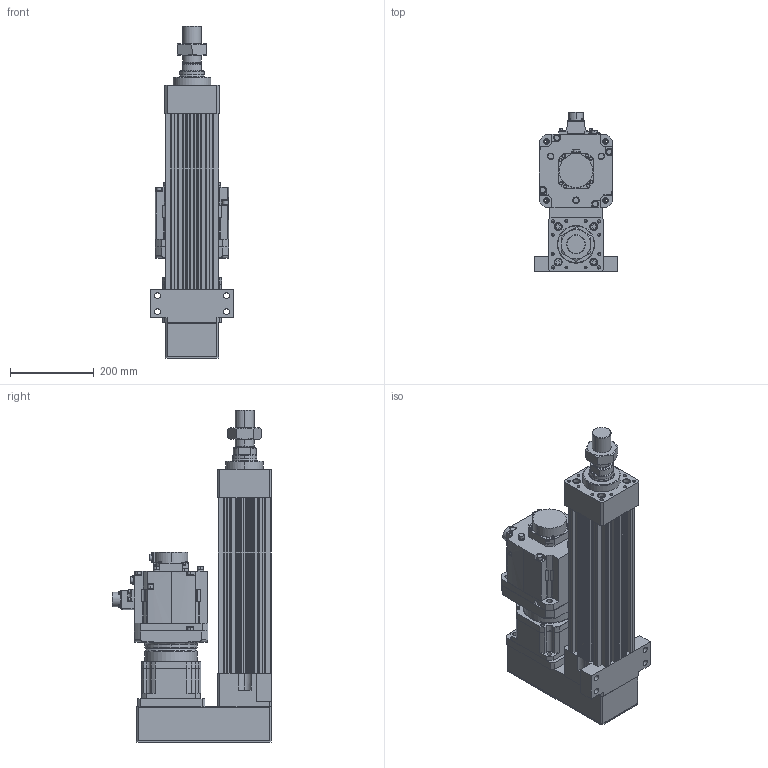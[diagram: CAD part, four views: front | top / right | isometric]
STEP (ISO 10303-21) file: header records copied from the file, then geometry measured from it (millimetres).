
FILE_DESCRIPTION (( 'STEP AP203' ), '1' );
FILE_NAME ('HES130NS(FS)(HS)-P200-W020G00-M-FFC.STEP', '2026-06-10T06:11:05', ( 'tms' ), ( '' ), 'SwSTEP 2.0', 'SolidWorks 2013', '' );
FILE_SCHEMA (( 'CONFIG_CONTROL_DESIGN' ));
Length unit declared in the file: millimetre
Products named in the file (9): HES130-M-ROD-200; AB1421; M45X1.5P; HES130-P-G142; AB1423; HES130NS(FS)(HS)-P200-W020G00-M-FFC; AB1422; HG-SR202B; HES130-FFC-200
Assembly tree (8 placements, depth 2):
  HES130NS(FS)(HS)-P200-W020G00-M-FFC
    HES130-FFC-200
    HES130-M-ROD-200
    M45X1.5P
    HES130-P-G142
    AB1421
    AB1422
    AB1423
    HG-SR202B
Bounding box: 200 x 381.85 x 794 mm (x, y, z)
Volume: 12592576.3 mm3; surface area: 1437323.7 mm2
Topology: 5 solids, 19 shells, 1533 faces, 3980 edges, 2570 vertices
Faces by surface type: cylinder 698, plane 585, cone 168, bspline 76, torus 6
Entity records: 55808 total; most frequent: CARTESIAN_POINT 16861, DIRECTION 8168, ORIENTED_EDGE 7838, EDGE_CURVE 3941, AXIS2_PLACEMENT_3D 3094, VERTEX_POINT 2570, VECTOR 1980, LINE 1980
